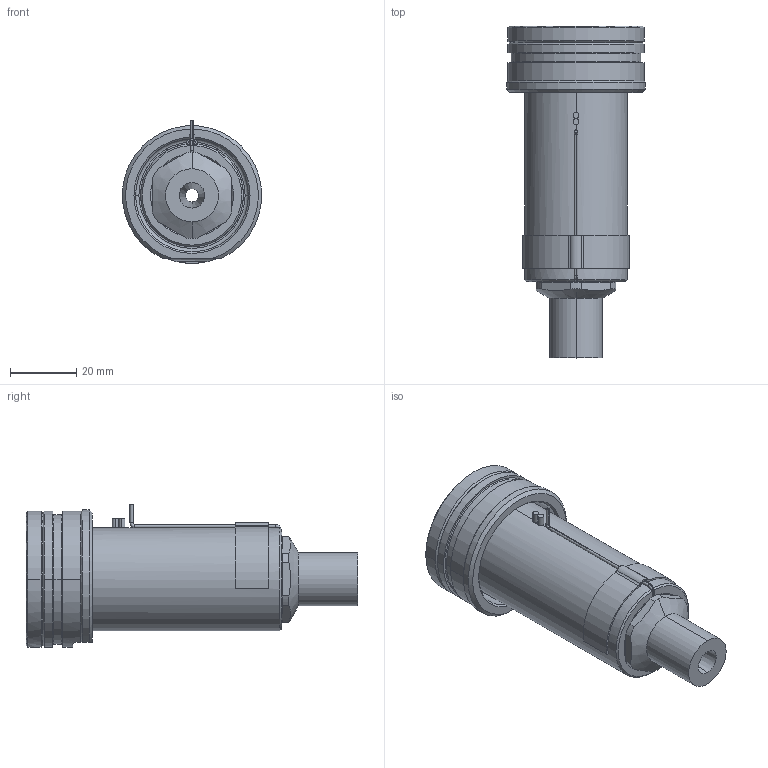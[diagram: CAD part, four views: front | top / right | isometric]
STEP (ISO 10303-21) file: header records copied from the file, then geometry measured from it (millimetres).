
FILE_DESCRIPTION((''),'2;1');
FILE_NAME('EO12_VG-ST_ESG_070_SW','2024-02-19T12:52:18',('sundharh'),(''),'CREO PARAMETRIC BY PTC INC, 2023154','CREO PARAMETRIC BY PTC INC, 2023154','');
FILE_SCHEMA(('CONFIG_CONTROL_DESIGN'));
Length unit declared in the file: millimetre
Products named in the file (1): EO12_VG-ST_ESG_070_SW
Bounding box: 41.85 x 100 x 43 mm (x, y, z)
Volume: 63622.7 mm3; surface area: 19422.4 mm2
Topology: 2 solids, 3 shells, 182 faces, 463 edges, 284 vertices
Faces by surface type: cylinder 65, plane 46, cone 37, torus 27, bspline 5, sphere 2
Entity records: 6233 total; most frequent: CARTESIAN_POINT 1726, DIRECTION 994, ORIENTED_EDGE 922, EDGE_CURVE 461, AXIS2_PLACEMENT_3D 415, VERTEX_POINT 284, CIRCLE 238, EDGE_LOOP 197
